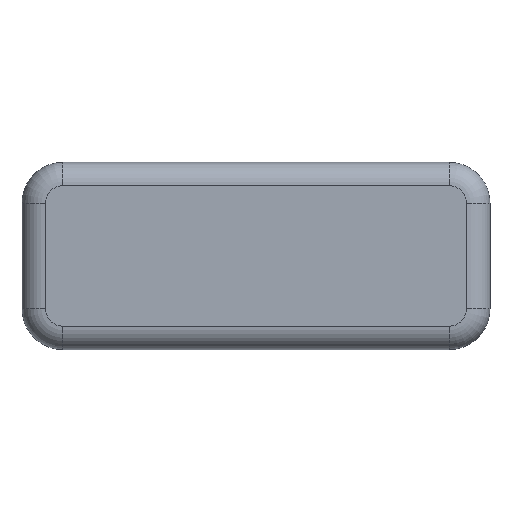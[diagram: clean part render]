
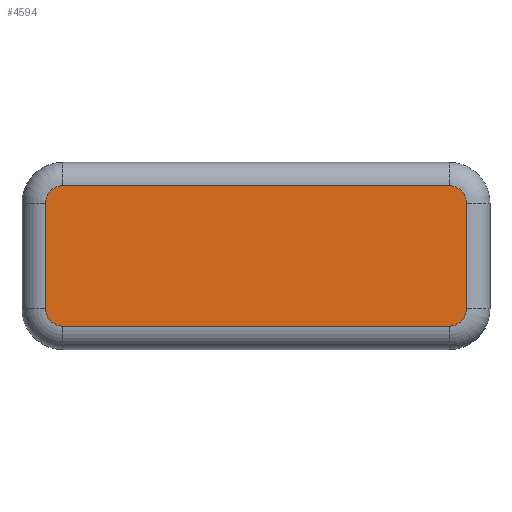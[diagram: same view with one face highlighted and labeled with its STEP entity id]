
A CAD part, top view. The second image highlights one B-rep face of the part: STEP entity #4594.
In plain terms, the highlighted planar face has unit normal (0, 0, 1).
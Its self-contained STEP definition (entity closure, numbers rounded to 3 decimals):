
#155 = CIRCLE ( 'NONE', #4374, 1.5 ) ;
#397 = VECTOR ( 'NONE', #5660, 1000. ) ;
#550 = VERTEX_POINT ( 'NONE', #2580 ) ;
#570 = DIRECTION ( 'NONE',  ( 0., -1., 0. ) ) ;
#683 = PLANE ( 'NONE',  #925 ) ;
#740 = EDGE_LOOP ( 'NONE', ( #3814, #1447, #2848, #2333, #3102, #3073, #1909, #4615 ) ) ;
#750 = CARTESIAN_POINT ( 'NONE',  ( -16.5, 4.5, 0. ) ) ;
#839 = CIRCLE ( 'NONE', #3681, 1.5 ) ;
#925 = AXIS2_PLACEMENT_3D ( 'NONE', #3513, #2553, #4430 ) ;
#993 = VERTEX_POINT ( 'NONE', #3672 ) ;
#1026 = LINE ( 'NONE', #3300, #397 ) ;
#1127 = DIRECTION ( 'NONE',  ( -1., 0., 0. ) ) ;
#1254 = EDGE_CURVE ( 'NONE', #4205, #5107, #155, .T. ) ;
#1445 = CARTESIAN_POINT ( 'NONE',  ( -18., -4.5, 0. ) ) ;
#1447 = ORIENTED_EDGE ( 'NONE', *, *, #5524, .T. ) ;
#1539 = EDGE_CURVE ( 'NONE', #3204, #4205, #1026, .T. ) ;
#1587 = LINE ( 'NONE', #3464, #3094 ) ;
#1607 = AXIS2_PLACEMENT_3D ( 'NONE', #750, #3078, #4960 ) ;
#1801 = LINE ( 'NONE', #2686, #4756 ) ;
#1909 = ORIENTED_EDGE ( 'NONE', *, *, #4244, .T. ) ;
#2052 = CARTESIAN_POINT ( 'NONE',  ( 18., -4.5, 0. ) ) ;
#2321 = DIRECTION ( 'NONE',  ( 0., -1., 0. ) ) ;
#2333 = ORIENTED_EDGE ( 'NONE', *, *, #1539, .T. ) ;
#2408 = CARTESIAN_POINT ( 'NONE',  ( -16.5, -4.5, 0. ) ) ;
#2487 = CARTESIAN_POINT ( 'NONE',  ( -16.5, 6., 0. ) ) ;
#2529 = DIRECTION ( 'NONE',  ( 0., -1., 0. ) ) ;
#2553 = DIRECTION ( 'NONE',  ( 0., 0., 1. ) ) ;
#2554 = CARTESIAN_POINT ( 'NONE',  ( 18., 4.5, 0. ) ) ;
#2580 = CARTESIAN_POINT ( 'NONE',  ( 16.5, 6., 0. ) ) ;
#2686 = CARTESIAN_POINT ( 'NONE',  ( -16.5, -6., 0. ) ) ;
#2715 = DIRECTION ( 'NONE',  ( 0., 0., 1. ) ) ;
#2782 = EDGE_CURVE ( 'NONE', #6072, #5933, #3974, .T. ) ;
#2812 = VERTEX_POINT ( 'NONE', #2487 ) ;
#2845 = CARTESIAN_POINT ( 'NONE',  ( 16.5, -4.5, 0. ) ) ;
#2848 = ORIENTED_EDGE ( 'NONE', *, *, #4561, .T. ) ;
#2863 = EDGE_CURVE ( 'NONE', #5933, #550, #3487, .T. ) ;
#2984 = CARTESIAN_POINT ( 'NONE',  ( 18., 4.5, 0. ) ) ;
#3001 = EDGE_CURVE ( 'NONE', #5107, #993, #1801, .T. ) ;
#3073 = ORIENTED_EDGE ( 'NONE', *, *, #3001, .T. ) ;
#3078 = DIRECTION ( 'NONE',  ( 0., 0., 1. ) ) ;
#3094 = VECTOR ( 'NONE', #1127, 1000. ) ;
#3102 = ORIENTED_EDGE ( 'NONE', *, *, #1254, .T. ) ;
#3178 = CARTESIAN_POINT ( 'NONE',  ( 16.5, 4.5, 0. ) ) ;
#3204 = VERTEX_POINT ( 'NONE', #3888 ) ;
#3300 = CARTESIAN_POINT ( 'NONE',  ( -18., 4.5, 0. ) ) ;
#3369 = CIRCLE ( 'NONE', #1607, 1.5 ) ;
#3464 = CARTESIAN_POINT ( 'NONE',  ( -16.5, 6., 0. ) ) ;
#3487 = CIRCLE ( 'NONE', #5161, 1.5 ) ;
#3513 = CARTESIAN_POINT ( 'NONE',  ( -16.5, 4.5, 0. ) ) ;
#3672 = CARTESIAN_POINT ( 'NONE',  ( 16.5, -6., 0. ) ) ;
#3681 = AXIS2_PLACEMENT_3D ( 'NONE', #2845, #4727, #2529 ) ;
#3814 = ORIENTED_EDGE ( 'NONE', *, *, #2863, .T. ) ;
#3888 = CARTESIAN_POINT ( 'NONE',  ( -18., 4.5, 0. ) ) ;
#3974 = LINE ( 'NONE', #2984, #4660 ) ;
#4205 = VERTEX_POINT ( 'NONE', #1445 ) ;
#4244 = EDGE_CURVE ( 'NONE', #993, #6072, #839, .T. ) ;
#4308 = DIRECTION ( 'NONE',  ( 0., 0., 1. ) ) ;
#4374 = AXIS2_PLACEMENT_3D ( 'NONE', #2408, #4308, #570 ) ;
#4430 = DIRECTION ( 'NONE',  ( 0., -1., 0. ) ) ;
#4561 = EDGE_CURVE ( 'NONE', #2812, #3204, #3369, .T. ) ;
#4567 = DIRECTION ( 'NONE',  ( 1., 0., 0. ) ) ;
#4594 = ADVANCED_FACE ( 'NONE', ( #5362 ), #683, .T. ) ;
#4615 = ORIENTED_EDGE ( 'NONE', *, *, #2782, .T. ) ;
#4660 = VECTOR ( 'NONE', #4873, 1000. ) ;
#4727 = DIRECTION ( 'NONE',  ( 0., 0., 1. ) ) ;
#4756 = VECTOR ( 'NONE', #4567, 1000. ) ;
#4873 = DIRECTION ( 'NONE',  ( 0., 1., 0. ) ) ;
#4960 = DIRECTION ( 'NONE',  ( 0., -1., 0. ) ) ;
#5107 = VERTEX_POINT ( 'NONE', #5375 ) ;
#5161 = AXIS2_PLACEMENT_3D ( 'NONE', #3178, #2715, #2321 ) ;
#5362 = FACE_OUTER_BOUND ( 'NONE', #740, .T. ) ;
#5375 = CARTESIAN_POINT ( 'NONE',  ( -16.5, -6., 0. ) ) ;
#5524 = EDGE_CURVE ( 'NONE', #550, #2812, #1587, .T. ) ;
#5660 = DIRECTION ( 'NONE',  ( 0., -1., 0. ) ) ;
#5933 = VERTEX_POINT ( 'NONE', #2554 ) ;
#6072 = VERTEX_POINT ( 'NONE', #2052 ) ;
